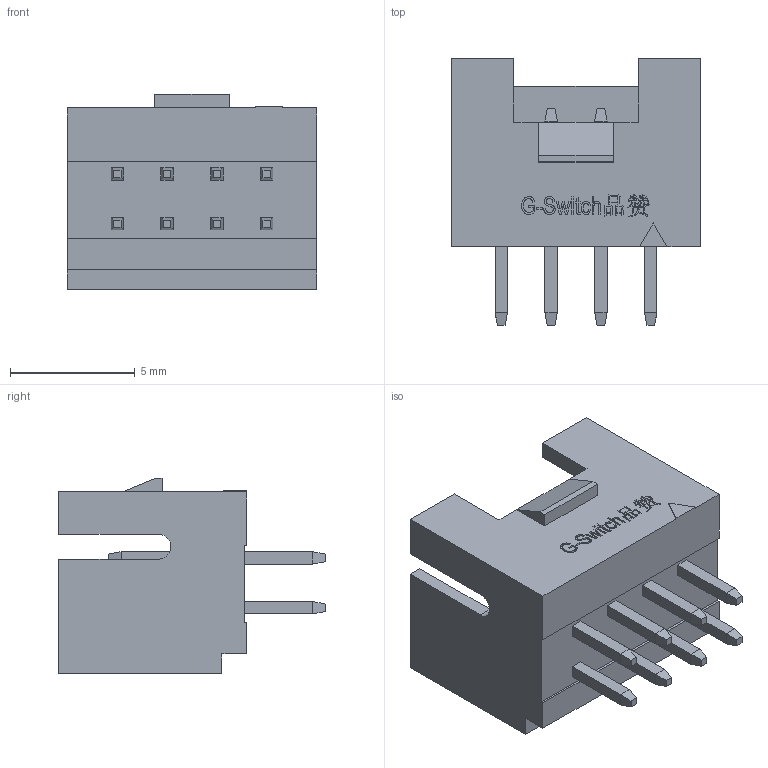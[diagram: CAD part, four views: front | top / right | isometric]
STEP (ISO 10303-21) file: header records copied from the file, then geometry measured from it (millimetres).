
FILE_DESCRIPTION (( 'STEP AP203' ), '1' );
FILE_NAME ('GT-A2006WVD-208SBT01.STEP', '2025-12-28T02:14:58', ( '' ), ( '' ), 'SwSTEP 2.0', 'SolidWorks 2020', '' );
FILE_SCHEMA (( 'CONFIG_CONTROL_DESIGN' ));
Length unit declared in the file: millimetre
Products named in the file (1): GT-A2006WVD-208SBT01
Bounding box: 10 x 10.7 x 7.85 mm (x, y, z)
Volume: 224.5 mm3; surface area: 658 mm2
Topology: 1 solids, 1 shells, 448 faces, 1164 edges, 754 vertices
Faces by surface type: plane 375, bspline 71, cylinder 2
Entity records: 16911 total; most frequent: CARTESIAN_POINT 6374, ORIENTED_EDGE 2328, DIRECTION 1782, EDGE_CURVE 1164, LINE 1018, VECTOR 1018, VERTEX_POINT 754, EDGE_LOOP 484
